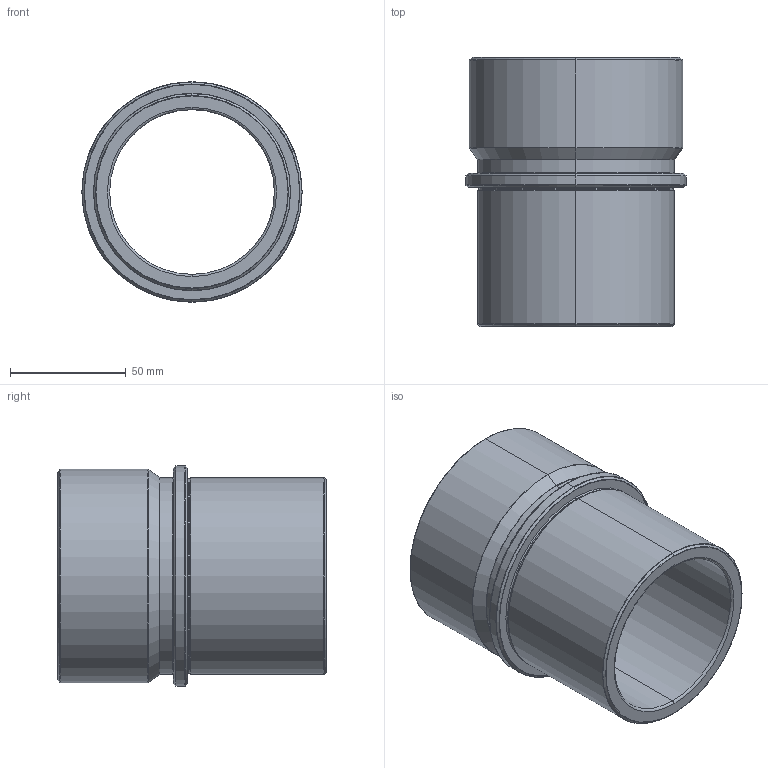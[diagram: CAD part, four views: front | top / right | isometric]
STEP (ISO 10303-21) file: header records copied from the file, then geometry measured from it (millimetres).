
FILE_DESCRIPTION( ( 'STEP AP203' ), '1' );
FILE_NAME( 'D:/Delta 3 D/D27/D27 - 63x116x60.step', '2003-01-03T00:37:06', ( ' ' ), ( ' ' ), 'XStep 1.0', ' ', ' ' );
FILE_SCHEMA( ( 'CONFIG_CONTROL_DESIGN' ) );
Length unit declared in the file: metre
Products named in the file (1): 1
Bounding box: 95 x 116 x 95 mm (x, y, z)
Volume: 246911 mm3; surface area: 64691.6 mm2
Topology: 1 solids, 1 shells, 56 faces, 112 edges, 60 vertices
Faces by surface type: bspline 34, revolution 22
Entity records: 1847 total; most frequent: CARTESIAN_POINT 825, ORIENTED_EDGE 224, DIRECTION 166, EDGE_CURVE 112, AXIS2_PLACEMENT_3D 61, EDGE_LOOP 60, VERTEX_POINT 60, CIRCLE 60
